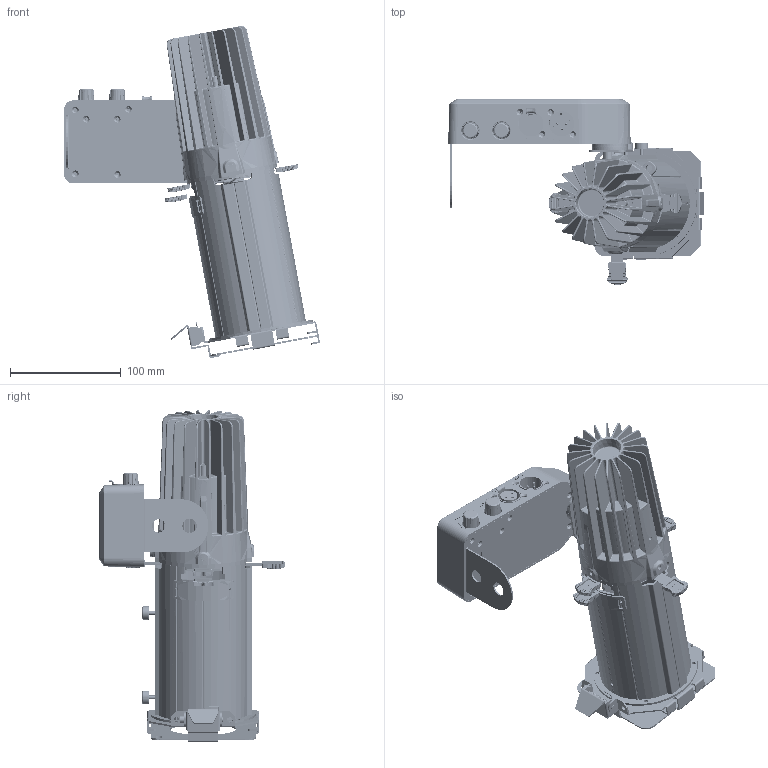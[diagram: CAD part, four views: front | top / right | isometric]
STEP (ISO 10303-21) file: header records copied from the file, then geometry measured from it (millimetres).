
FILE_DESCRIPTION (( 'STEP AP214' ), '1' );
FILE_NAME ('show s40T.STEP', '2025-06-24T02:57:20', ( '' ), ( '' ), 'SwSTEP 2.0', 'SolidWorks 2023', '' );
FILE_SCHEMA (( 'AUTOMOTIVE_DESIGN' ));
Length unit declared in the file: millimetre
Products named in the file (34): KOU2^ZT-G-548___ASM_60W-mini_asm(2)_60W-mini_asm; DG-3_9___^ZT-G-548___ASM_60W-mini_asm(2)_60W-mini_asm; 滚齿-通孔; LV-DT_72___^ZT-G-548___ASM_60W-mini_asm(2)_60W-mini_asm; QG-1_11___^ZT-G-548___ASM_60W-mini_asm(2)_60W-mini_asm; 散热器; ZCGD-4_25___^ZT-G-548___ASM_60W-mini_asm(2)_60W-mini_asm; DGB-83_12___^ZT-G-548___ASM_60W-mini_asm(2)_60W-mini_asm; 色片夹; DG-2__1___^GX-GT_ASM_57____ASM_ZT-G-548___ASM_60W-mini_asm(2)_60W-mini_asm; 控制盒固定板; M4-NLJ_^SE__ASM_ZT-G-548___ASM_60W-mini_asm(2)_60W-mini_asm; 滚齿-M6; ZZ-GD_ASM_365_ASM_1; ZT-G-548___ASM^60W-mini_asm(2)_60W-mini_asm; GD-83_49___^ZT-G-548___ASM_60W-mini_asm(2)_60W-mini_asm; DGB-4_23___^GX-GT_ASM_57____ASM_ZT-G-548___ASM_60W-mini_asm(2)_60W-mini_asm; DG-2_7___^ZT-G-548___ASM_60W-mini_asm(2)_60W-mini_asm; S2_^SE__ASM_ZT-G-548___ASM_60W-mini_asm(2)_60W-mini_asm; SB-S_36___^TAJ-4_ASM_5____ASM_ZT-G-548___ASM_60W-mini_asm(2)_60W-mini_asm; TAJ-4_ASM_5____ASM^ZT-G-548___ASM_60W-mini_asm(2)_60W-mini_asm; 固定板支撑杆; SB-S_36___^ZT-G-548___ASM_60W-mini_asm(2)_60W-mini_asm; SE__ASM^ZT-G-548___ASM_60W-mini_asm(2)_60W-mini_asm; TBLJ-3__^ZT-G-548___ASM_60W-mini_asm(2)_60W-mini_asm; S1-_^SE__ASM_ZT-G-548___ASM_60W-mini_asm(2)_60W-mini_asm; GX-GT_ASM_57____ASM^ZT-G-548___ASM_60W-mini_asm(2)_60W-mini_asm; YS-2024-203-PA66+30GF1.005; show s40T; DW-4_8___^ZT-G-548___ASM_60W-mini_asm(2)_60W-mini_asm; 5-ZC__4___^GX-GT_ASM_57____ASM_ZT-G-548___ASM_60W-mini_asm(2)_60W-mini_asm; QG-40_32___^ZT-G-548___ASM_60W-mini_asm(2)_60W-mini_asm; XN-4_8___^ZT-G-548___ASM_60W-mini_asm(2)_60W-mini_asm; TH_^SE__ASM_ZT-G-548___ASM_60W-mini_asm(2)_60W-mini_asm
Assembly tree (44 placements, depth 4):
  show s40T
    滚齿-M6
    滚齿-通孔
    控制盒固定板
    ZZ-GD_ASM_365_ASM_1
      散热器
    固定板支撑杆
    ZT-G-548___ASM^60W-mini_asm(2)_60W-mini_asm
      GX-GT_ASM_57____ASM^ZT-G-548___ASM_60W-mini_asm(2)_60W-mini_asm
        DG-2__1___^GX-GT_ASM_57____ASM_ZT-G-548___ASM_60W-mini_asm(2)_60W-mini_asm
        5-ZC__4___^GX-GT_ASM_57____ASM_ZT-G-548___ASM_60W-mini_asm(2)_60W-mini_asm  x2
        DGB-4_23___^GX-GT_ASM_57____ASM_ZT-G-548___ASM_60W-mini_asm(2)_60W-mini_asm
      TAJ-4_ASM_5____ASM^ZT-G-548___ASM_60W-mini_asm(2)_60W-mini_asm
        SB-S_36___^TAJ-4_ASM_5____ASM_ZT-G-548___ASM_60W-mini_asm(2)_60W-mini_asm
      SE__ASM^ZT-G-548___ASM_60W-mini_asm(2)_60W-mini_asm
        S1-_^SE__ASM_ZT-G-548___ASM_60W-mini_asm(2)_60W-mini_asm
        S2_^SE__ASM_ZT-G-548___ASM_60W-mini_asm(2)_60W-mini_asm
        M4-NLJ_^SE__ASM_ZT-G-548___ASM_60W-mini_asm(2)_60W-mini_asm
        TH_^SE__ASM_ZT-G-548___ASM_60W-mini_asm(2)_60W-mini_asm
      GD-83_49___^ZT-G-548___ASM_60W-mini_asm(2)_60W-mini_asm
      DW-4_8___^ZT-G-548___ASM_60W-mini_asm(2)_60W-mini_asm
      QG-1_11___^ZT-G-548___ASM_60W-mini_asm(2)_60W-mini_asm
      DG-2_7___^ZT-G-548___ASM_60W-mini_asm(2)_60W-mini_asm
      QG-40_32___^ZT-G-548___ASM_60W-mini_asm(2)_60W-mini_asm  x4
      DG-3_9___^ZT-G-548___ASM_60W-mini_asm(2)_60W-mini_asm  x4
      LV-DT_72___^ZT-G-548___ASM_60W-mini_asm(2)_60W-mini_asm
      TBLJ-3__^ZT-G-548___ASM_60W-mini_asm(2)_60W-mini_asm
      ZCGD-4_25___^ZT-G-548___ASM_60W-mini_asm(2)_60W-mini_asm
      DGB-83_12___^ZT-G-548___ASM_60W-mini_asm(2)_60W-mini_asm
      SB-S_36___^ZT-G-548___ASM_60W-mini_asm(2)_60W-mini_asm  x4
      XN-4_8___^ZT-G-548___ASM_60W-mini_asm(2)_60W-mini_asm  x2
      KOU2^ZT-G-548___ASM_60W-mini_asm(2)_60W-mini_asm
    色片夹
    YS-2024-203-PA66+30GF1.005
Bounding box: 230.87 x 167.82 x 299.87 mm (x, y, z)
Volume: 502629.9 mm3; surface area: 488534.3 mm2
Topology: 63 solids, 63 shells, 9158 faces, 22954 edges, 14063 vertices
Faces by surface type: plane 2820, cylinder 2381, bspline 2381, torus 1060, sphere 301, cone 215
Full cylindrical faces by diameter (mm): 1 x6, 1.2 x2, 2 x6, 2.3 x6, 2.4 x18, 2.5 x36, 2.65 x1, 3 x6, 3.2 x28, 3.4 x4, 3.5 x6, 3.76 x2, 4.2 x5, 4.5 x1, 5 x18, 5.5 x9, 6 x3, 6.2 x1, 6.5 x7, 6.6 x8, 7.2 x2, 7.214 x1, 8 x3, 8.2 x1, 10 x1, 11.5 x1, 12 x1, 12.5 x1, 13 x2, 15.5 x2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
Entity records: 311264 total; most frequent: CARTESIAN_POINT 168020, ORIENTED_EDGE 33506, DIRECTION 23475, EDGE_CURVE 16753, VERTEX_POINT 10586, AXIS2_PLACEMENT_3D 8486, EDGE_LOOP 7517, FACE_OUTER_BOUND 6961
